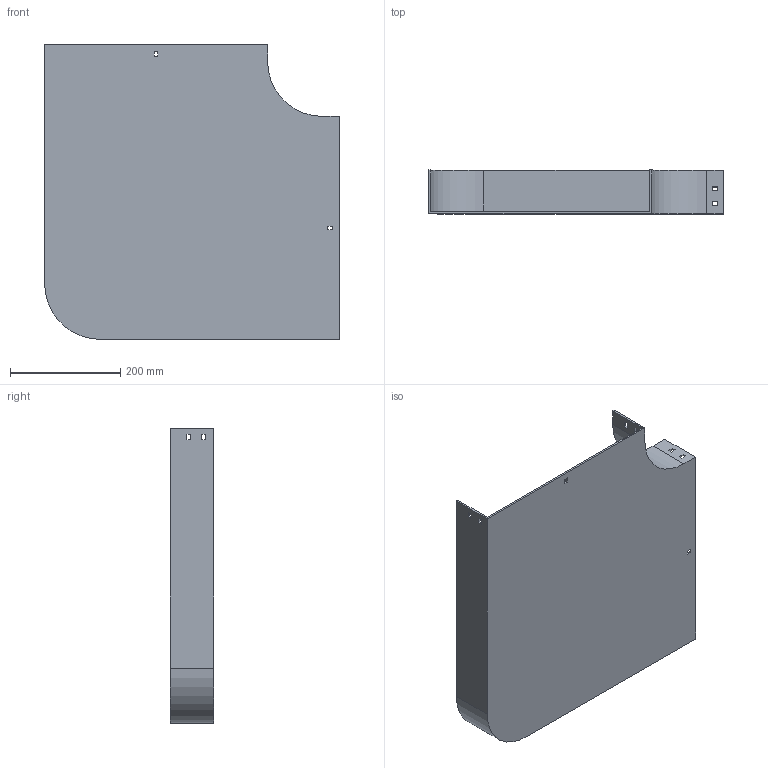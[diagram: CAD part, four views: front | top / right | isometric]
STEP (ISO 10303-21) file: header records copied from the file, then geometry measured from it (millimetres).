
FILE_DESCRIPTION (( 'STEP AP214' ), '1' );
FILE_NAME ('10F1C400.step', '2025-02-21T12:57:40', ( '' ), ( '' ), 'SwSTEP 2.0', 'SolidWorks 2023', '' );
FILE_SCHEMA (( 'AUTOMOTIVE_DESIGN' ));
Length unit declared in the file: millimetre
Products named in the file (1): 10F1C400
Bounding box: 534 x 79 x 534 mm (x, y, z)
Volume: 1264767.1 mm3; surface area: 732125.6 mm2
Topology: 1 solids, 1 shells, 58 faces, 168 edges, 112 vertices
Faces by surface type: plane 54, cylinder 4
Entity records: 1943 total; most frequent: CARTESIAN_POINT 339, ORIENTED_EDGE 336, DIRECTION 294, EDGE_CURVE 168, LINE 160, VECTOR 160, VERTEX_POINT 112, EDGE_LOOP 78
